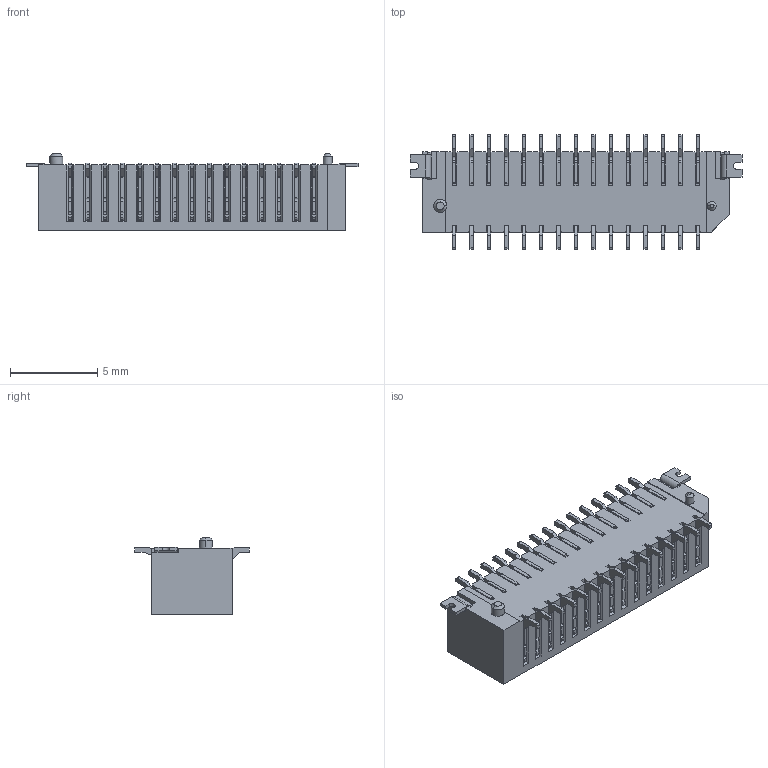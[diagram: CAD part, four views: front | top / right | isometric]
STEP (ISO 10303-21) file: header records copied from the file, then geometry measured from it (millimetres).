
FILE_DESCRIPTION((''),'2;1');
FILE_NAME('30P','2009-09-22T',('snow'),(''),'PRO/ENGINEER BY PARAMETRIC TECHNOLOGY CORPORATION, 2007450','PRO/ENGINEER BY PARAMETRIC TECHNOLOGY CORPORATION, 2007450','');
FILE_SCHEMA(('CONFIG_CONTROL_DESIGN'));
Length unit declared in the file: millimetre
Products named in the file (1): 30P
Bounding box: 19.08 x 6.6 x 4.42 mm (x, y, z)
Volume: 177.8 mm3; surface area: 900.2 mm2
Topology: 1 solids, 1 shells, 2108 faces, 6551 edges, 4252 vertices
Faces by surface type: plane 1572, cylinder 532, cone 4
Entity records: 72443 total; most frequent: ORIENTED_EDGE 13102, CARTESIAN_POINT 12919, DIRECTION 11833, EDGE_CURVE 6551, VECTOR 5477, LINE 5477, VERTEX_POINT 4252, AXIS2_PLACEMENT_3D 3178
